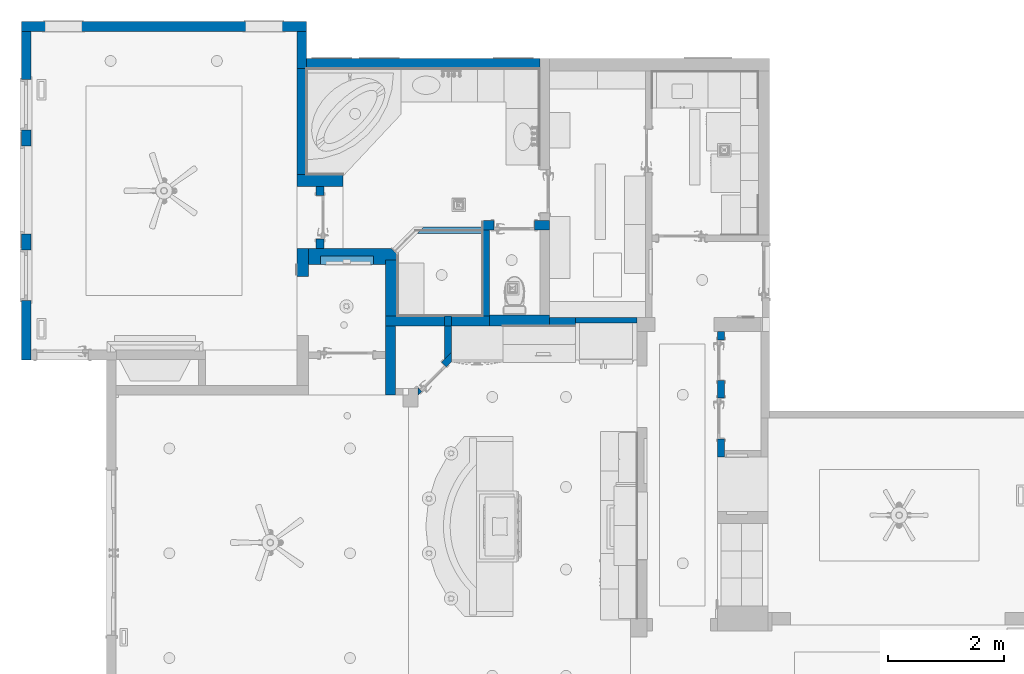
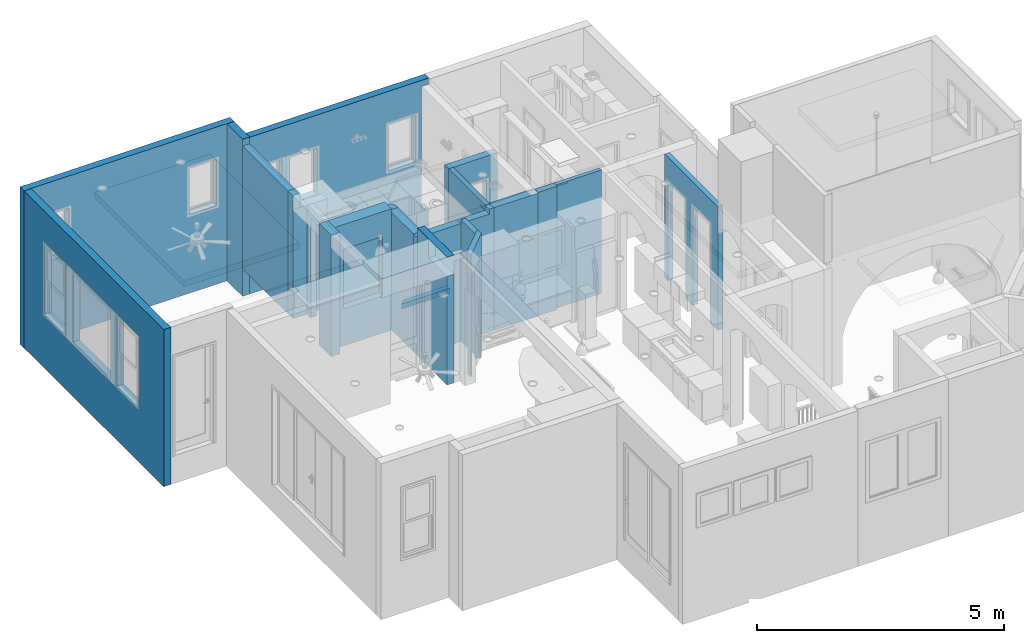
# One storey, part 8 of 77: 23 walls.
"""IFC2X3 building model written with IfcOpenShell, lengths in inches."""

from ifc_helpers import new_model, entity, si_unit, converted_unit, derived_unit, money_unit, direction, frame, origin_with_axes, place, context, subcontext, project, spatial, faceted_brep, material, type_object, element, save


model = new_model("IFC2X3")

# Units and contexts
model_context = context("Model", 3, precision=0.000393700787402, world=origin_with_axes(), true_north=direction((0.0, 1.0)))
body_context = subcontext(model_context, "Body", "Model", "MODEL_VIEW")
ifc_project = project(units=[converted_unit("LENGTHUNIT", "INCH", entity("IfcPositiveLengthMeasure", 0.0254), si_unit("LENGTHUNIT", "METRE"), dimensions=[1, 0, 0, 0, 0, 0, 0]), converted_unit("AREAUNIT", "SQUARE_FOOT", entity("IfcPositiveLengthMeasure", 0.09290304), si_unit("AREAUNIT", "SQUARE_METRE"), dimensions=[2, 0, 0, 0, 0, 0, 0]), si_unit("PLANEANGLEUNIT", "RADIAN"), si_unit("SOLIDANGLEUNIT", "STERADIAN"), money_unit("USD"), converted_unit("TIMEUNIT", "Year", entity("IfcTimeMeasure", 31556926.0), si_unit("TIMEUNIT", "SECOND"), dimensions=[0, 0, 1, 0, 0, 0, 0]), si_unit("MASSUNIT", "GRAM", prefix="KILO"), si_unit("THERMODYNAMICTEMPERATUREUNIT", "DEGREE_CELSIUS"), si_unit("LUMINOUSINTENSITYUNIT", "LUMEN"), si_unit("ENERGYUNIT", "JOULE", prefix="MEGA"), derived_unit("THERMALCONDUCTANCEUNIT", [(si_unit("POWERUNIT", "WATT"), 1), (si_unit("LENGTHUNIT", "METRE"), -1), (si_unit("THERMODYNAMICTEMPERATUREUNIT", "KELVIN"), -1)]), derived_unit("SPECIFICHEATCAPACITYUNIT", [(si_unit("ENERGYUNIT", "JOULE"), 1), (si_unit("MASSUNIT", "GRAM", prefix="KILO"), -1), (si_unit("THERMODYNAMICTEMPERATUREUNIT", "KELVIN"), -1)]), derived_unit("MASSDENSITYUNIT", [(si_unit("MASSUNIT", "GRAM", prefix="KILO"), 1), (si_unit("VOLUMEUNIT", "CUBIC_METRE"), -1)])], contexts=[model_context])

# Site, building, storey
site_placement = place(None, origin_with_axes())
site = spatial("IfcSite", under=ifc_project, at=site_placement, Name="Site", CompositionType="ELEMENT")
building_placement = place(site_placement, origin_with_axes())
building = spatial("IfcBuilding", under=site, at=building_placement, Name="Building", CompositionType="ELEMENT")
storey_placement = place(building_placement, frame((0.0, 0.0, 127.952755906), z_axis=(0.0, 0.0, 1.0), x_axis=(1.0, 0.0, 0.0)))
storey = spatial("IfcBuildingStorey", under=building, at=storey_placement, Name="Second Floor", CompositionType="ELEMENT", Elevation=127.953)

# Walls
ifc_material = material(Name="Generic - Structural")
wall_type_1 = type_object("IfcWallType", Name="Generic - Structural 165", PredefinedType="NOTDEFINED")
wall_1_placement = place(storey_placement, frame((406.739643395, 582.908405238, 0.0), z_axis=(0.0, 0.0, 1.0), x_axis=(0.0, -1.0, 0.0)))
element("IfcWall", 1, at=wall_1_placement, inside=storey, type_object=wall_type_1, material=ifc_material, Name="SW - 123", context=body_context, shape_type="Brep", body=[
    faceted_brep([(72.095105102, 6.49999999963, 0.0157480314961), (0.000777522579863, 6.5, 0.0157480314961), (0.000810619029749, 6.5, 0.0), (0.0, 6.5, 0.0), (0.0, 6.5, 119.5), (72.095105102, 6.49999999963, 119.5), (0.000777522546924, 0.0, 0.0157480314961), (72.0951051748, -3.65691728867e-10, 0.0157480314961), (0.000811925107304, 0.0, 0.0), (0.0, 0.0, 0.0), (0.0, 0.0, 119.5), (72.0951051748, -3.65691728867e-10, 119.5)], [[[0, 1, 2, 3, 4, 5]], [[6, 1, 0, 7]], [[8, 2, 1, 6]], [[3, 2, 8, 9]], [[3, 9, 10, 4]], [[10, 11, 5, 4]], [[11, 7, 0, 5]], [[8, 6, 7, 11, 10, 9]]]),
])
wall_2_placement = place(storey_placement, frame((406.739643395, 607.989865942, -26.968503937), z_axis=(0.0, 0.0, 1.0), x_axis=(0.0, -1.0, 0.0)))
element("IfcWall", 2, at=wall_2_placement, inside=storey, type_object=wall_type_1, material=ifc_material, Name="SW - 123", context=body_context, shape_type="Brep", body=[
    faceted_brep([(0.0, 0.0, 152.952755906), (25.0814607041, 0.0, 152.952755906), (25.0814607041, 6.5, 152.952755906), (0.0, 6.5, 152.952755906), (0.0, 0.0, 0.0), (25.0814607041, 0.0, 0.0), (25.0814607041, 6.5, 0.0), (0.0, 6.5, 0.0)], [[[0, 1, 2, 3]], [[4, 5, 1, 0]], [[2, 1, 5, 6]], [[3, 2, 6, 7]], [[4, 0, 3, 7]], [[7, 6, 5, 4]]]),
])
wall_3_placement = place(storey_placement, frame((220.137942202, 607.989865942, -26.968503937), z_axis=(0.0, 0.0, 1.0), x_axis=(1.0, 0.0, 0.0)))
element("IfcWall", 3, at=wall_3_placement, inside=storey, type_object=wall_type_1, material=ifc_material, Name="SW - 122", context=body_context, shape_type="Brep", body=[
    faceted_brep([(0.0, 0.0, 152.952755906), (0.0, 0.0, 0.0), (193.101701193, 0.0, 0.0), (193.101701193, 0.0, 152.952755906), (15.9613031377, 0.0, 122.047244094), (41.1581535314, 0.0, 122.047244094), (41.1581535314, 0.0, 76.5748031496), (15.9613031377, 0.0, 76.5748031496), (151.770781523, 0.0, 76.5748031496), (151.770781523, 0.0, 122.047244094), (176.967631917, 0.0, 122.047244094), (176.967631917, 0.0, 76.5748031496), (0.0, 6.5, 152.952755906), (0.0, 6.5, 0.0), (193.101701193, 6.5, 0.0), (193.101701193, 6.5, 152.952755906), (41.1581535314, 6.5, 122.047244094), (15.9613031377, 6.5, 122.047244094), (41.1581535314, 6.5, 76.5748031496), (15.9613031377, 6.5, 76.5748031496), (151.770781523, 6.5, 76.5748031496), (151.770781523, 6.5, 122.047244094), (176.967631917, 6.5, 122.047244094), (176.967631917, 6.5, 76.5748031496)], [[[0, 1, 2, 3], [4, 5, 6, 7], [8, 9, 10, 11]], [[12, 13, 1, 0]], [[1, 13, 14, 2]], [[2, 14, 15, 3]], [[12, 0, 3, 15]], [[16, 5, 4, 17]], [[18, 6, 5, 16]], [[19, 7, 6, 18]], [[17, 4, 7, 19]], [[20, 21, 9, 8]], [[21, 22, 10, 9]], [[22, 23, 11, 10]], [[23, 20, 8, 11]], [[13, 12, 15, 14], [18, 16, 17, 19], [20, 23, 22, 21]]]),
])
wall_4_placement = place(storey_placement, frame((226.637942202, 391.840243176, -26.968503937), z_axis=(0.0, 0.0, 1.0), x_axis=(0.0, 1.0, 0.0)))
element("IfcWall", 4, at=wall_4_placement, inside=storey, type_object=wall_type_1, material=ifc_material, Name="SW - 121", context=body_context, shape_type="Brep", body=[
    faceted_brep([(216.149622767, 6.5, 152.952755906), (216.149622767, 6.5, 0.0), (-6.5, 6.5, 0.0), (-6.5, 6.5, 152.952755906), (183.64977137, 6.5, 122.047244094), (149.200952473, 6.5, 122.047244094), (149.200952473, 6.5, 52.7559055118), (183.64977137, 6.5, 52.7559055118), (68.0985902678, 6.5, 52.7559055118), (68.0985902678, 6.5, 122.047244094), (33.6497713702, 6.5, 122.047244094), (33.6497713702, 6.5, 52.7559055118), (78.7285115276, 6.5, 52.7559055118), (138.571031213, 6.5, 52.7559055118), (138.571031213, 6.5, 122.047244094), (78.7285115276, 6.5, 122.047244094), (216.149622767, 0.0, 152.952755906), (216.149622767, 0.0, 0.0), (-6.5, 0.0, 0.0), (-6.5, 0.0, 152.952755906), (183.64977137, 0.0, 122.047244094), (149.200952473, 0.0, 122.047244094), (149.200952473, 0.0, 52.7559055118), (183.64977137, 0.0, 52.7559055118), (68.0985902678, 0.0, 122.047244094), (68.0985902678, 0.0, 52.7559055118), (33.6497713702, 0.0, 122.047244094), (33.6497713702, 0.0, 52.7559055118), (78.7285115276, 0.0, 52.7559055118), (138.571031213, 0.0, 52.7559055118), (138.571031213, 0.0, 122.047244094), (78.7285115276, 0.0, 122.047244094)], [[[0, 1, 2, 3], [4, 5, 6, 7], [8, 9, 10, 11], [12, 13, 14, 15]], [[1, 0, 16, 17]], [[1, 17, 18, 2]], [[3, 2, 18, 19]], [[16, 0, 3, 19]], [[5, 4, 20, 21]], [[6, 5, 21, 22]], [[7, 6, 22, 23]], [[4, 7, 23, 20]], [[24, 9, 8, 25]], [[26, 10, 9, 24]], [[27, 11, 10, 26]], [[25, 8, 11, 27]], [[28, 29, 13, 12]], [[29, 30, 14, 13]], [[30, 31, 15, 14]], [[31, 28, 12, 15]], [[17, 16, 19, 18], [20, 23, 22, 21], [26, 24, 25, 27], [28, 31, 30, 29]]]),
])
wall_type_2 = type_object("IfcWallType", Name="Generic - Structural 205", PredefinedType="NOTDEFINED")
wall_5_placement = place(storey_placement, frame((406.739643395, 502.742433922, 0.0), z_axis=(0.0, 0.0, 1.0), x_axis=(1.0, 1.12074795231e-08, 0.0)))
element("IfcWall", 5, at=wall_5_placement, inside=storey, type_object=wall_type_2, material=ifc_material, Name="SW - 124", context=body_context, shape_type="Brep", body=[
    faceted_brep([(1.84552285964e-09, 0.164738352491, 119.5), (1.43961832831e-09, 0.164738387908, 105.905511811), (6.50000000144, 0.164718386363, 105.905511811), (6.50000000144, 0.164718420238, 119.5), (9.041306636e-08, 8.07086614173, 0.015748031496), (0.0, 0.0, 0.015748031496), (0.0, 5.04932928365e-10, 105.905511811), (9.041306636e-08, 8.07086614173, 119.5), (6.49999999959, -7.28486037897e-08, 105.905511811), (31.500000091, -3.53035605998e-07, 105.905511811), (31.5000000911, 8.0708657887, 105.905511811), (6.50000009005, 8.07086606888, 105.905511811), (6.50000009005, 8.07086606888, 119.5), (31.5000000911, -3.53035605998e-07, 0.015748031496), (31.5000001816, 8.0708657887, 0.015748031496)], [[[0, 1, 2, 3]], [[4, 5, 6, 1, 0, 7]], [[2, 1, 6, 8, 9, 10, 11]], [[11, 12, 3, 2]], [[12, 7, 0, 3]], [[13, 5, 4, 14]], [[8, 6, 5, 13, 9]], [[14, 4, 7, 12, 11, 10]], [[10, 9, 13, 14]]]),
])
wall_6_placement = place(storey_placement, frame((406.739643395, 460.830823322, 0.0), z_axis=(0.0, 0.0, 1.0), x_axis=(0.0, -1.0, 0.0)))
element("IfcWall", 6, at=wall_6_placement, inside=storey, type_object=wall_type_2, material=ifc_material, Name="SW - 128", context=body_context, shape_type="Brep", body=[
    faceted_brep([(0.0, 0.0, 0.0157480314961), (0.0, 0.0, 118.11023622), (0.0, 8.07086614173, 118.11023622), (0.0, 8.07086614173, 0.0157480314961), (18.9047018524, 0.0, 0.0157480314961), (18.9047018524, 0.0, 118.11023622), (18.9047018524, 8.07086614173, 118.11023622), (18.9047018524, 8.07086614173, 0.0157480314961)], [[[0, 1, 2, 3]], [[4, 5, 1, 0]], [[5, 6, 2, 1]], [[3, 2, 6, 7]], [[4, 0, 3, 7]], [[7, 6, 5, 4]]]),
])
wall_type_3 = type_object("IfcWallType", Name="Generic - Structural 115", PredefinedType="NOTDEFINED")
wall_7_placement = place(storey_placement, frame((488.838940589, 361.25028057, 0.0), z_axis=(0.0, 0.0, 1.0), x_axis=(0.706995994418, 0.707217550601, 0.0)))
element("IfcWall", 7, at=wall_7_placement, inside=storey, type_object=wall_type_3, material=ifc_material, Name="SW - 100", context=body_context, shape_type="Brep", body=[
    faceted_brep([(3.68363741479, 0.0, 0.0157480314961), (3.68363741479, 0.0, 96.4566929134), (27.3056846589, 0.0, 96.4566929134), (27.3056846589, 0.0, 0.0157480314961), (32.0379506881, 0.0, 0.0157480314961), (32.0379506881, 0.0, 118.503937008), (0.0112251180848, 0.0, 118.503937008), (0.0112251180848, 0.0, 0.0157480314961), (3.68363741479, 3.67126180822, 0.0157480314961), (3.68363741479, 3.67126180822, 96.4566929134), (4.54020300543, 4.52755905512, 96.4566929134), (27.3056846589, 4.52755905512, 96.4566929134), (27.3056846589, 4.52755905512, 0.0157480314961), (36.5669285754, 4.52755905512, 0.0157480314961), (36.5669285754, 4.52755905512, 118.503937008), (4.54020300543, 4.52755905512, 118.503937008)], [[[0, 1, 2, 3, 4, 5, 6, 7]], [[1, 0, 8, 9]], [[2, 1, 9, 10, 11]], [[3, 2, 11, 12]], [[3, 12, 13, 4]], [[4, 13, 14, 5]], [[15, 6, 5, 14]], [[9, 8, 7, 6, 15, 10]], [[8, 0, 7]], [[11, 10, 15, 14, 13, 12]]]),
])
wall_8_placement = place(storey_placement, frame((691.987424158, 319.40717231, 0.0), z_axis=(0.0, 0.0, 1.0), x_axis=(0.0, 1.0, 0.0)))
element("IfcWall", 8, at=wall_8_placement, inside=storey, type_object=wall_type_3, material=ifc_material, Name="SW - 107", context=body_context, shape_type="Brep", body=[
    faceted_brep([(12.4009949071, -4.52755905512, 0.0157480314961), (12.4009949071, -4.52755905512, 96.4566929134), (39.9600500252, -4.52755905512, 96.4566929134), (39.9600500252, -4.52755905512, 0.0157480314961), (51.9775749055, -4.52755905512, 0.0157480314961), (51.9775749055, -4.52755905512, 96.4566929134), (79.5366300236, -4.52755905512, 96.4566929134), (79.5366300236, -4.52755905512, 0.0157480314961), (85.0480590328, -4.52755905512, 0.0157480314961), (85.0480590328, -4.52755905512, 120.078740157), (0.0, -4.52755905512, 120.078740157), (0.0, -4.52755905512, 94.094488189), (-4.77230596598e-05, -4.52755905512, 0.0157480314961), (12.4009949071, 0.0, 0.0157480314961), (12.4009949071, 0.0, 96.4566929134), (39.9600500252, 0.0, 96.4566929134), (39.9600500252, 0.0, 0.0157480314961), (51.9775749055, 0.0, 0.0157480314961), (51.9775749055, 0.0, 96.4566929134), (79.5366300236, 0.0, 96.4566929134), (79.5366300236, 0.0, 0.0157480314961), (85.0480590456, 0.0, 0.0157480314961), (85.0480590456, 0.0, 120.078740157), (0.0, 0.0, 120.078740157), (0.0, 0.0, 94.094488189), (0.0, 0.0, 0.0157480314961)], [[[0, 1, 2, 3, 4, 5, 6, 7, 8, 9, 10, 11, 12]], [[1, 0, 13, 14]], [[2, 1, 14, 15]], [[3, 2, 15, 16]], [[3, 16, 17, 4]], [[4, 17, 18, 5]], [[5, 18, 19, 6]], [[6, 19, 20, 7]], [[20, 21, 8, 7]], [[21, 22, 9, 8]], [[23, 10, 9, 22]], [[24, 25, 12, 11, 10, 23]], [[13, 0, 12, 25]], [[14, 13, 25, 24, 23, 22, 21, 20, 19, 18, 17, 16, 15]]]),
])
wall_9_placement = place(storey_placement, frame((537.445294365, 408.408081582, 0.0), z_axis=(0.0, 0.0, 1.0), x_axis=(0.0, 1.0, 0.0)))
element("IfcWall", 9, at=wall_9_placement, inside=storey, type_object=wall_type_3, material=ifc_material, Name="SW - 135", context=body_context, shape_type="Brep", body=[
    faceted_brep([(64.9394298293, 4.52755905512, 0.0157480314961), (64.9394298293, 4.52755905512, 114.75), (64.9394298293, 4.4556515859, 114.75), (64.9394298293, 4.4556515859, 119.5), (64.9394298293, 0.0, 119.5), (64.9394298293, 0.0, 0.0157480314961), (6.5, 4.52755905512, 0.0157480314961), (6.5, 4.52755905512, 114.75), (6.5, 4.4556515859, 114.75), (6.5, 4.4556515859, 119.5), (6.5, 0.0, 119.5), (6.5, 0.0, 0.0157480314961)], [[[0, 1, 2, 3, 4, 5]], [[6, 7, 1, 0]], [[8, 2, 1, 7]], [[8, 9, 3, 2]], [[4, 3, 9, 10]], [[10, 11, 5, 4]], [[6, 0, 5, 11]], [[9, 8, 7, 6, 11, 10]]]),
])
wall_10_placement = place(storey_placement, frame((511.489643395, 383.908081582, 0.0), z_axis=(0.0, 0.0, 1.0), x_axis=(0.0, 1.0, 0.0)))
element("IfcWall", 10, at=wall_10_placement, inside=storey, type_object=wall_type_3, material=ifc_material, Name="SW - 101", context=body_context, shape_type="Brep", body=[
    faceted_brep([(24.5, 4.52755905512, 114.75), (24.4999989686, 4.52755905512, 118.503937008), (24.4999989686, 0.0, 118.503937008), (24.4999999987, 0.0, 114.75), (24.4999999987, 0.0, 0.0157480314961), (24.4999999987, 4.5, 0.0157480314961), (24.4999999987, 4.5, 114.75), (1.87496087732, 4.52755905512, 0.0157480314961), (1.87496087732, 4.52755905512, 118.503937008), (31.0, 4.52755905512, 114.75), (30.9999999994, 4.52755905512, 0.0157480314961), (6.40393876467, 0.0, 118.503937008), (6.40393876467, 0.0, 0.0157480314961), (30.9999999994, 4.5, 0.0157480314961), (31.0, 4.5, 114.75)], [[[0, 1, 2, 3, 4, 5, 6]], [[7, 8, 1, 0, 9, 10]], [[8, 11, 2, 1]], [[3, 2, 11, 12, 4]], [[13, 5, 4, 12, 7, 10]], [[6, 5, 13, 14]], [[9, 0, 6, 14]], [[12, 11, 8, 7]], [[14, 13, 10, 9]]]),
])
wall_type_4 = type_object("IfcWallType", Name="Generic - Structural 140", PredefinedType="NOTDEFINED")
wall_11_placement = place(storey_placement, frame((577.98948096, 408.408081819, 0.0), z_axis=(0.0, 0.0, 1.0), x_axis=(1.0, -1.41393113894e-08, 0.0)))
element("IfcWall", 11, at=wall_11_placement, inside=storey, type_object=wall_type_4, material=ifc_material, Name="SW - 104", context=body_context, shape_type="Brep", body=[
    faceted_brep([(0.000120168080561, 5.50000000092, 119.68503937), (0.0001201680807, 5.5, 119.5), (0.000162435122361, -2.36825642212e-07, 119.5), (0.000162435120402, 0.0, 119.68503937), (0.0, 0.0, 120.078740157), (-7.77661749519e-08, 5.5, 120.078740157), (0.0001201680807, 5.5, 0.0157480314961), (17.5001798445, 5.50000024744, 120.078740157), (17.5001798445, 5.50000024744, 120.0), (17.5001798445, 5.50000024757, 0.0157480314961), (0.000162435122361, -2.36825642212e-07, 0.0157480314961), (17.5001799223, 2.30140176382e-07, 0.0157480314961), (17.5001799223, 3.46985642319e-07, 118.503937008), (17.4796935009, -1.02106928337e-06, 118.503937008), (17.4796935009, 3.47972849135e-07, 120.078740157), (17.479676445, 2.00000135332, 120.078740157), (17.500179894, 1.99997850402, 120.078740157), (17.500179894, 1.99997850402, 118.503937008), (17.479676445, 2.00000135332, 118.503937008)], [[[0, 1, 2, 3, 4, 5]], [[6, 1, 0, 5, 7, 8, 9]], [[10, 2, 1, 6]], [[4, 3, 2, 10, 11, 12, 13, 14]], [[7, 5, 4, 14, 15, 16]], [[12, 11, 9, 8, 7, 16, 17]], [[11, 10, 6, 9]], [[17, 18, 13, 12]], [[15, 14, 13, 18]], [[18, 17, 16, 15]]]),
])
wall_12_placement = place(storey_placement, frame((419.760963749, 502.742434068, 0.0), z_axis=(0.0, 0.0, 1.0), x_axis=(1.12074775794e-08, -1.0, 0.0)))
element("IfcWall", 12, at=wall_12_placement, inside=storey, type_object=wall_type_4, material=ifc_material, Name="SW - 126", context=body_context, shape_type="Brep", body=[
    faceted_brep([(35.4278867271, 5.49999960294, 0.0157480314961), (35.4278867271, 5.49999960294, 96.4566929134), (5.900327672, 5.49999993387, 96.4566929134), (5.900327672, 5.49999993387, 0.0157480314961), (0.0, 5.5, 0.0157480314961), (0.0, 5.5, 105.905511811), (41.9116108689, 5.49999953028, 105.905511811), (41.9116108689, 5.49999953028, 0.0157480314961), (35.4278866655, -3.97057295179e-07, 0.0157480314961), (35.4278866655, -3.97057295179e-07, 96.4566929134), (5.90032761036, -6.61278206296e-08, 96.4566929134), (5.90032761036, -6.61278206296e-08, 0.0157480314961), (0.0, 0.0, 0.0157480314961), (0.0, 0.0, 105.905511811), (41.9116108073, -4.69723437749e-07, 105.905511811), (41.9116108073, -4.69723437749e-07, 0.0157480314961)], [[[0, 1, 2, 3, 4, 5, 6, 7]], [[1, 0, 8, 9]], [[2, 1, 9, 10]], [[3, 2, 10, 11]], [[3, 11, 12, 4]], [[4, 12, 13, 5]], [[13, 14, 6, 5]], [[15, 7, 6, 14]], [[8, 0, 7, 15]], [[9, 8, 15, 14, 13, 12, 11, 10]]]),
])
wall_type_5 = type_object("IfcWallType", Name="Generic Wall 6.5\" 165", PredefinedType="NOTDEFINED")
wall_13_placement = place(storey_placement, frame((506.989643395, 408.408081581, 0.0), z_axis=(0.0, 0.0, 1.0), x_axis=(1.0, 2.7930608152e-10, 0.0)))
element("IfcWall", 13, at=wall_13_placement, inside=storey, type_object=wall_type_5, material=ifc_material, Name="SW - 102", context=body_context, shape_type="Brep", body=[
    faceted_brep([(4.5, -1.25687736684e-09, 114.75), (4.5, -1.25687736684e-09, 0.0157480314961), (4.50000000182, 6.49999999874, 0.0157480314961), (4.50000000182, 6.49999999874, 114.75), (0.0, 0.0, 114.75), (0.0, 0.0, 0.0157480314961), (1.81552061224e-09, 6.5, 0.0157480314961), (1.81552061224e-09, 6.5, 114.75)], [[[0, 1, 2, 3]], [[4, 5, 1, 0]], [[5, 6, 2, 1]], [[3, 2, 6, 7]], [[0, 3, 7, 4]], [[7, 6, 5, 4]]]),
])
wall_14_placement = place(storey_placement, frame((511.489643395, 408.408081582, 0.0), z_axis=(0.0, 0.0, 1.0), x_axis=(1.0, 0.0, 0.0)))
element("IfcWall", 14, at=wall_14_placement, inside=storey, type_object=wall_type_5, material=ifc_material, Name="SW - 102", context=body_context, shape_type="Brep", body=[
    faceted_brep([(0.0, 6.5, 0.0157480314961), (0.0, 6.5, 114.75), (21.4999993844, 6.5, 114.75), (21.4999993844, 6.5, 119.5), (26.0, 6.5, 119.5), (26.0, 6.5, 0.0157480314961), (0.0, 0.0, 0.0157480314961), (0.0, -1.17006666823e-08, 114.75), (21.4999993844, -1.24285533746e-08, 114.75), (21.4999993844, -1.24285533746e-08, 119.5), (26.0, 0.0, 119.5), (26.0, 0.0, 0.0157480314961)], [[[0, 1, 2, 3, 4, 5]], [[6, 7, 1, 0]], [[8, 2, 1, 7]], [[8, 9, 3, 2]], [[4, 3, 9, 10]], [[10, 11, 5, 4]], [[6, 0, 5, 11]], [[9, 8, 7, 6, 11, 10]]]),
])
wall_15_placement = place(storey_placement, frame((406.739643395, 582.981927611, -26.968503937), z_axis=(0.0, 0.0, 1.0), x_axis=(1.0, 0.0, 0.0)))
element("IfcWall", 15, at=wall_15_placement, inside=storey, type_object=wall_type_5, material=ifc_material, Name="SW - 129", context=body_context, shape_type="Brep", body=[
    faceted_brep([(171.248660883, 0.0, 26.968503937), (164.748660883, 0.0, 26.968503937), (164.748660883, 0.0, 146.653543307), (171.248660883, 0.0, 146.653543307), (171.248660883, 0.0, 152.559055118), (6.50000000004, 0.0, 152.559055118), (6.50000000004, 0.0, 0.0), (171.248660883, 0.0, 0.0), (36.6178205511, 0.0, 120.669291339), (36.6178205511, 0.0, 75.1968503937), (11.02726937, 0.0, 75.1968503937), (11.02726937, 0.0, 120.669291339), (43.1091949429, 0.0, 120.669291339), (68.699746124, 0.0, 120.669291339), (68.699746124, 0.0, 75.1968503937), (43.1091949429, 0.0, 75.1968503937), (133.842459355, 0.0, 75.1968503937), (133.842459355, 0.0, 120.669291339), (159.433010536, 0.0, 120.669291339), (159.433010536, 0.0, 75.1968503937), (164.748611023, 6.5, 26.968503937), (171.248611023, 6.5, 26.968503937), (164.748611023, 6.5, 146.653543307), (171.248611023, 6.5, 146.653543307), (171.248660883, 6.5, 152.559055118), (6.50000000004, 6.5, 152.559055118), (6.50000000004, 6.5, 0.0), (171.248660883, 6.5, 0.0), (36.6178205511, 6.5, 120.669291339), (36.6178205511, 6.5, 75.1968503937), (11.02726937, 6.5, 75.1968503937), (11.02726937, 6.5, 120.669291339), (68.699746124, 6.5, 120.669291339), (43.1091949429, 6.5, 120.669291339), (68.699746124, 6.5, 75.1968503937), (43.1091949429, 6.5, 75.1968503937), (133.842459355, 6.5, 75.1968503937), (133.842459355, 6.5, 120.669291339), (159.433010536, 6.5, 120.669291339), (159.433010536, 6.5, 75.1968503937)], [[[0, 1, 2, 3, 4, 5, 6, 7], [8, 9, 10, 11], [12, 13, 14, 15], [16, 17, 18, 19]], [[20, 1, 0, 21]], [[2, 1, 20, 22]], [[3, 2, 22, 23]], [[24, 4, 3, 23]], [[24, 25, 5, 4]], [[26, 6, 5, 25]], [[7, 6, 26, 27]], [[7, 27, 21, 0]], [[9, 8, 28, 29]], [[10, 9, 29, 30]], [[11, 10, 30, 31]], [[8, 11, 31, 28]], [[32, 13, 12, 33]], [[34, 14, 13, 32]], [[35, 15, 14, 34]], [[33, 12, 15, 35]], [[36, 37, 17, 16]], [[37, 38, 18, 17]], [[38, 39, 19, 18]], [[39, 36, 16, 19]], [[23, 22, 20, 21, 27, 26, 25, 24], [28, 31, 30, 29], [34, 32, 33, 35], [36, 39, 38, 37]]]),
])
wall_16_placement = place(storey_placement, frame((466.989643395, 408.40808157, 0.0), z_axis=(0.0, 0.0, 1.0), x_axis=(0.0, -1.0, 0.0)))
element("IfcWall", 16, at=wall_16_placement, inside=storey, type_object=wall_type_5, material=ifc_material, Name="SW - 116", context=body_context, shape_type="Brep", body=[
    faceted_brep([(47.028468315, 6.5, 105.905511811), (47.028468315, 0.0, 105.905511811), (47.028468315, 0.0, 0.015748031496), (47.028468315, 6.5, 0.015748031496), (17.5979589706, 0.0, 105.905511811), (42.5009088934, 0.0, 105.905511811), (17.5684107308, 6.5, 105.905511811), (17.5979589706, 0.0, 118.5), (17.5979589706, 0.0, 124.405511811), (47.028468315, 0.0, 124.405511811), (47.028468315, 0.0, 124.409448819), (0.0, 0.0, 124.409448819), (-2.23429324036e-09, 1.94099050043e-06, 120.655511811), (0.0, 0.0, 114.75), (0.0, 0.0, 0.015748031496), (0.0, 6.5, 0.015748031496), (0.0, 6.5, 114.75), (1.01896381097e-06, 6.5, 118.503937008), (17.5684107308, 6.5, 118.503937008), (17.5685038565, 6.47951426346, 118.503937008), (17.5685038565, 6.47951426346, 124.405511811), (47.0281978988, 6.5, 124.405511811), (42.5009083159, 6.47951426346, 124.405511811), (42.5009088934, 6.50000148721, 124.405511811), (47.028468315, 6.5, 124.409448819), (42.5009083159, 6.5, 124.409448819), (42.5009083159, 6.47951426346, 124.409448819), (1.01896381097e-06, 6.47951426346, 124.409448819), (5.08474452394e-07, 6.47951426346, 120.655511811), (1.01896381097e-06, 6.47951426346, 118.503937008)], [[[0, 1, 2, 3]], [[4, 5, 1, 0, 6]], [[2, 1, 5, 4, 7, 8, 9, 10, 11, 12, 13, 14]], [[3, 2, 14, 15]], [[6, 0, 3, 15, 16, 17, 18]], [[8, 7, 4, 6, 18, 19, 20]], [[21, 9, 8, 20, 22, 23]], [[10, 9, 21, 24]], [[11, 10, 24, 25, 26, 27]], [[28, 12, 11, 27]], [[16, 13, 12, 28, 29, 17]], [[15, 14, 13, 16]], [[29, 19, 18, 17]], [[27, 26, 22, 20, 19, 29, 28]], [[23, 22, 26, 25]], [[25, 24, 21, 23]]]),
])
wall_17_placement = place(storey_placement, frame((466.989643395, 408.40808157, 0.0), z_axis=(0.0, 0.0, 1.0), x_axis=(1.0, 2.79290151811e-10, 0.0)))
element("IfcWall", 17, at=wall_17_placement, inside=storey, type_object=wall_type_5, material=ifc_material, Name="SW - 102", context=body_context, shape_type="Brep", body=[
    faceted_brep([(40.0, -1.11716060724e-08, 114.75), (40.0, -1.11716060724e-08, 0.0157480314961), (40.0000000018, 6.49999998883, 0.0157480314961), (40.0000000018, 6.49999998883, 114.75), (0.0, 0.0, 114.75), (0.0, 0.0, 0.0157480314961), (1.81538074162e-09, 6.5, 0.0157480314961), (1.81538074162e-09, 6.5, 114.75)], [[[0, 1, 2, 3]], [[4, 5, 1, 0]], [[5, 6, 2, 1]], [[3, 2, 6, 7]], [[7, 4, 0, 3]], [[7, 6, 5, 4]]]),
])
wall_18_placement = place(storey_placement, frame((532.91773531, 473.347511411, 0.0), z_axis=(0.0, 0.0, 1.0), x_axis=(1.0, 0.0, 0.0)))
element("IfcWall", 18, at=wall_18_placement, inside=storey, type_object=wall_type_5, material=ifc_material, Name="SW - 136", context=body_context, shape_type="Brep", body=[
    faceted_brep([(7.41401066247, 6.5, 96.4566929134), (7.41401066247, 6.5, 0.0157480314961), (0.0, 6.5, 0.0157480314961), (0.0, 6.5, 119.5), (45.0719060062, 6.5, 119.5), (45.0719060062, 6.5, 0.0157480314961), (34.9730657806, 6.5, 0.0157480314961), (34.9730657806, 6.5, 96.4566929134), (7.41401066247, 0.0, 96.4566929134), (7.41401066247, 0.0, 0.0157480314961), (0.0, 0.0, 0.0157480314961), (0.0, 0.0, 114.75), (0.0, 2.09091089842, 114.75), (0.0, 2.09091089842, 119.5), (45.0719060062, 0.0, 119.5), (0.0719074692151, 2.09091089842, 119.5), (0.0719074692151, 0.0, 119.5), (45.0719060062, 0.0, 0.0157480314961), (34.9730657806, 0.0, 0.0157480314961), (34.9730657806, 0.0, 96.4566929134), (0.0719074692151, 0.0, 114.75), (0.0719074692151, 2.09091089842, 114.75)], [[[0, 1, 2, 3, 4, 5, 6, 7]], [[1, 0, 8, 9]], [[1, 9, 10, 2]], [[3, 2, 10, 11, 12, 13]], [[14, 4, 3, 13, 15, 16]], [[17, 5, 4, 14]], [[18, 6, 5, 17]], [[7, 6, 18, 19]], [[0, 7, 19, 8]], [[19, 18, 17, 14, 16, 20, 11, 10, 9, 8]], [[11, 20, 21, 12]], [[15, 13, 12, 21]], [[16, 15, 21, 20]]]),
])
wall_type_6 = type_object("IfcWallType", Name="Generic Wall 4.5\" 114", PredefinedType="NOTDEFINED")
wall_19_placement = place(storey_placement, frame((488.353604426, 470.93842231, 0.0), z_axis=(0.0, 0.0, 1.0), x_axis=(1.0, 0.0, 0.0)))
element("IfcWall", 19, at=wall_19_placement, inside=storey, type_object=wall_type_6, material=ifc_material, Name="SW - 138", context=body_context, shape_type="Brep", body=[
    faceted_brep([(44.5641308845, 0.0, 5.0), (44.5641308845, 0.0, 0.0157480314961), (44.5641308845, 4.5, 0.0157480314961), (44.5641308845, 4.5, 5.0), (0.0, 0.0, 5.0), (0.0, 0.0, 0.0157480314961), (4.50006891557, 4.5, 0.0157480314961), (4.50006891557, 4.5, 5.0)], [[[0, 1, 2, 3]], [[4, 5, 1, 0]], [[5, 6, 2, 1]], [[3, 2, 6, 7]], [[4, 0, 3, 7]], [[7, 6, 5, 4]]]),
])
wall_type_7 = type_object("IfcWallType", Name="Generic - Structural 190", PredefinedType="NOTDEFINED")
wall_20_placement = place(storey_placement, frame((537.445294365, 408.408081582, 0.0), z_axis=(0.0, 0.0, 1.0), x_axis=(1.0, -2.61761825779e-10, 0.0)))
element("IfcWall", 20, at=wall_20_placement, inside=storey, type_object=wall_type_7, material=ifc_material, Name="SW - 102", context=body_context, shape_type="Brep", body=[
    faceted_brep([(40.5443490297, 1.0612962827e-08, 119.5), (40.5443490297, 1.0612962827e-08, 0.0157480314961), (40.5442916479, 7.48031497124, 0.0157480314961), (40.5442916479, 7.48031497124, 119.5), (0.0, 0.0, 119.5), (0.0, 0.0, 0.0157480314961), (-1.95804877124e-09, 7.48031496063, 0.0157480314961), (-1.95804877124e-09, 7.48031496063, 119.5)], [[[0, 1, 2, 3]], [[4, 5, 1, 0]], [[5, 6, 2, 1]], [[3, 2, 6, 7]], [[0, 3, 7, 4]], [[7, 6, 5, 4]]]),
])
wall_type_8 = type_object("IfcWallType", Name="Generic - Structural 90", PredefinedType="NOTDEFINED")
wall_21_placement = place(storey_placement, frame((595.489660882, 410.364774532, 0.0), z_axis=(0.0, 0.0, 1.0), x_axis=(0.999999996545, -8.3130789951e-05, 0.0)))
element("IfcWall", 21, at=wall_21_placement, inside=storey, type_object=wall_type_8, material=ifc_material, Name="SW - 014", context=body_context, shape_type="Brep", body=[
    faceted_brep([(41.9719830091, 0.0, 118.503937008), (9.26411759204e-05, 0.0432854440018, 118.503937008), (0.0, 0.0, 118.503937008), (41.9719830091, 0.0, 120.078740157), (9.45727034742e-05, 0.0432854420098, 120.078740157), (-0.000294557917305, 3.54330707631, 0.015748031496), (0.0, 0.0, 0.015748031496), (0.0, 3.54330708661, 120.078740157), (41.9924665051, 0.0, 0.015748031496), (41.9924665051, 0.0, 120.078740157), (41.9924665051, 3.54330708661, 120.078740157), (41.9924665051, 3.54330708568, 0.015748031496)], [[[0, 1, 2]], [[1, 0, 3, 4]], [[5, 6, 2, 1, 4, 7]], [[0, 2, 6, 8, 9, 3]], [[7, 4, 3, 9, 10]], [[8, 6, 5, 11]], [[11, 5, 7, 10]], [[10, 9, 8, 11]]]),
])
wall_type_9 = type_object("IfcWallType", Name="Generic - Structural 200", PredefinedType="NOTDEFINED")
wall_22_placement = place(storey_placement, frame((474.863661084, 456.950277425, 0.0), z_axis=(0.0, 0.0, 1.0), x_axis=(0.0, -1.0, 0.0)))
element("IfcWall", 22, at=wall_22_placement, inside=storey, type_object=wall_type_9, material=ifc_material, Name="SW - 116", context=body_context, shape_type="Brep", body=[
    faceted_brep([(42.0421958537, 0.0, 114.75), (42.0421958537, 0.0, 0.0157480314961), (3.93700787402, 0.0, 0.0157480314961), (3.93700787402, 0.0, 114.75), (42.0421958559, -7.87401574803, 114.75), (42.0421958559, -7.87401574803, 0.0157480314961), (3.93700787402, -7.87401574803, 0.0157480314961), (3.93700787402, -7.87401574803, 114.75)], [[[0, 1, 2, 3]], [[4, 5, 1, 0]], [[5, 6, 2, 1]], [[3, 2, 6, 7]], [[4, 0, 3, 7]], [[7, 6, 5, 4]]]),
])
wall_type_10 = type_object("IfcWallType", Name="Generic - Structural Polygonal", PredefinedType="NOTDEFINED")
wall_23_placement = place(storey_placement, frame((470.739643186, 460.830823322, 0.0), z_axis=(0.0, 0.0, 1.0), x_axis=(-1.0, 0.0, 0.0)))
element("IfcWall", 23, at=wall_23_placement, inside=storey, type_object=wall_type_10, material=ifc_material, Name="SW - 127", context=body_context, shape_type="Brep", body=[
    faceted_brep([(45.4999993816, 0.0, 0.0157480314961), (45.4999993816, 0.0, 118.11023622), (3.7499978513, 0.0, 118.11023622), (3.7499978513, 0.0, 114.75), (0.0, 0.0, 114.75), (0.0, 0.0, 0.0157480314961), (63.9999997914, 0.0, 0.0157480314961), (63.9999997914, 0.0, 118.11023622), (63.9999997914, 10.999999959, 118.11023622), (3.74999815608, 10.999999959, 118.11023622), (3.74999785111, 10.999999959, 114.75), (-4.12401789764, 10.999999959, 114.75), (-4.12401789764, 3.88054589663, 114.75), (-4.12401789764, 3.88054589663, 0.0157480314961), (-4.12401789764, 10.999999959, 0.0157480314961), (63.9999997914, 10.999999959, 0.0157480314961), (12.026035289, 10.999999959, 94.0708661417), (12.026035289, 10.999999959, 36.0), (48.0496573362, 10.999999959, 36.0), (48.0496573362, 10.999999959, 94.0708661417), (12.026035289, 5.0000002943, 94.0708661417), (12.026035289, 5.0000002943, 36.0), (48.0496573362, 5.0000002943, 36.0), (48.0496573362, 5.0000002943, 94.0708661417)], [[[0, 1, 2, 3, 4, 5]], [[6, 7, 1, 0]], [[8, 9, 2, 1, 7]], [[3, 2, 9, 10]], [[10, 11, 12, 4, 3]], [[5, 4, 12, 13]], [[0, 5, 13, 14, 15, 6]], [[15, 8, 7, 6]], [[10, 9, 8, 15, 14, 11], [16, 17, 18, 19]], [[13, 12, 11, 14]], [[20, 21, 17, 16]], [[21, 22, 18, 17]], [[22, 23, 19, 18]], [[23, 20, 16, 19]], [[23, 22, 21, 20]]]),
])

save(model, "model.ifc")
